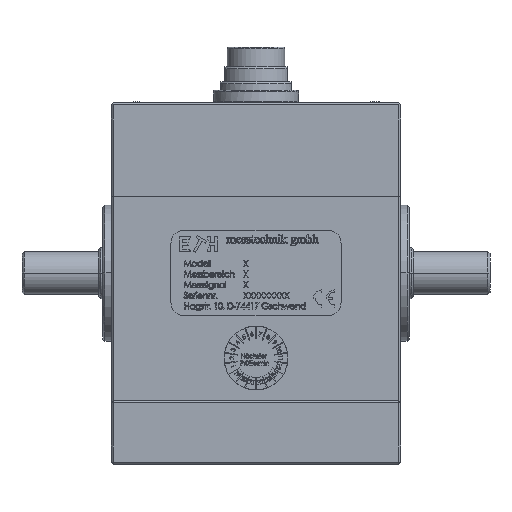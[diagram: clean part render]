
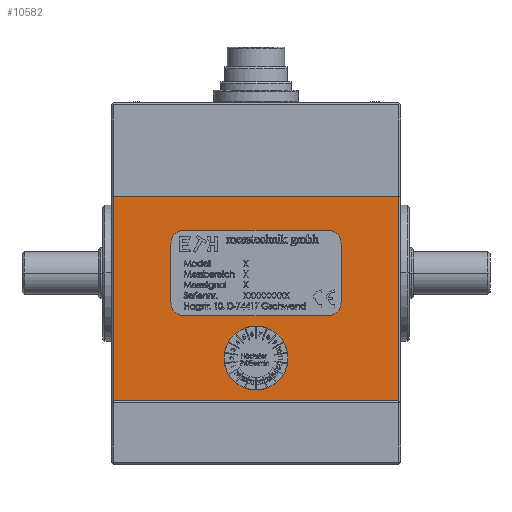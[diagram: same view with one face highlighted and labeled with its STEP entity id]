
A CAD part, top view. The second image highlights one B-rep face of the part: STEP entity #10582.
In plain terms, the highlighted planar face has unit normal (0, 0, 1).
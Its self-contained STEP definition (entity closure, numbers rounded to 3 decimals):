
#7469 = CARTESIAN_POINT ( 'NONE',  ( 16.491, -37.195, 18. ) ) ;
#8626 = PLANE ( 'NONE',  #162906 ) ;
#10582 = ADVANCED_FACE ( 'NONE', ( #145846 ), #8626, .F. ) ;
#10726 = ORIENTED_EDGE ( 'NONE', *, *, #74071, .T. ) ;
#11227 = CARTESIAN_POINT ( 'NONE',  ( 18.491, -25.195, 18. ) ) ;
#12118 = DIRECTION ( 'NONE',  ( 0., 1., 0. ) ) ;
#19056 = LINE ( 'NONE', #7469, #159053 ) ;
#25989 = VECTOR ( 'NONE', #119151, 1000. ) ;
#26164 = LINE ( 'NONE', #159084, #25989 ) ;
#30954 = ORIENTED_EDGE ( 'NONE', *, *, #130956, .T. ) ;
#35828 = DIRECTION ( 'NONE',  ( 1., 0., 0. ) ) ;
#36894 = CARTESIAN_POINT ( 'NONE',  ( 15.991, 10.805, 18. ) ) ;
#49619 = ORIENTED_EDGE ( 'NONE', *, *, #82311, .T. ) ;
#59847 = CARTESIAN_POINT ( 'NONE',  ( 15.991, 10.805, 18. ) ) ;
#60807 = DIRECTION ( 'NONE',  ( 0., 1., 0. ) ) ;
#65538 = CARTESIAN_POINT ( 'NONE',  ( 18.491, 10.805, 18. ) ) ;
#65609 = CARTESIAN_POINT ( 'NONE',  ( 15.991, -37.195, 18. ) ) ;
#74071 = EDGE_CURVE ( 'NONE', #141186, #116243, #26164, .T. ) ;
#75382 = DIRECTION ( 'NONE',  ( -1., 0., 0. ) ) ;
#77294 = VECTOR ( 'NONE', #75382, 1000. ) ;
#78754 = VERTEX_POINT ( 'NONE', #65609 ) ;
#82311 = EDGE_CURVE ( 'NONE', #116243, #78754, #19056, .T. ) ;
#93936 = CARTESIAN_POINT ( 'NONE',  ( -51.009, -37.195, 18. ) ) ;
#94073 = VECTOR ( 'NONE', #60807, 1000. ) ;
#104156 = LINE ( 'NONE', #36894, #94073 ) ;
#108145 = VERTEX_POINT ( 'NONE', #59847 ) ;
#110338 = EDGE_LOOP ( 'NONE', ( #30954, #10726, #49619, #158630 ) ) ;
#111743 = CARTESIAN_POINT ( 'NONE',  ( -51.009, 10.805, 18. ) ) ;
#116243 = VERTEX_POINT ( 'NONE', #93936 ) ;
#117536 = DIRECTION ( 'NONE',  ( 0., 0., -1. ) ) ;
#119151 = DIRECTION ( 'NONE',  ( 0., -1., 0. ) ) ;
#130956 = EDGE_CURVE ( 'NONE', #108145, #141186, #132004, .T. ) ;
#132004 = LINE ( 'NONE', #65538, #77294 ) ;
#141186 = VERTEX_POINT ( 'NONE', #111743 ) ;
#145846 = FACE_OUTER_BOUND ( 'NONE', #110338, .T. ) ;
#158630 = ORIENTED_EDGE ( 'NONE', *, *, #165637, .T. ) ;
#159053 = VECTOR ( 'NONE', #35828, 1000. ) ;
#159084 = CARTESIAN_POINT ( 'NONE',  ( -51.009, -37.195, 18. ) ) ;
#162906 = AXIS2_PLACEMENT_3D ( 'NONE', #11227, #117536, #12118 ) ;
#165637 = EDGE_CURVE ( 'NONE', #78754, #108145, #104156, .T. ) ;
